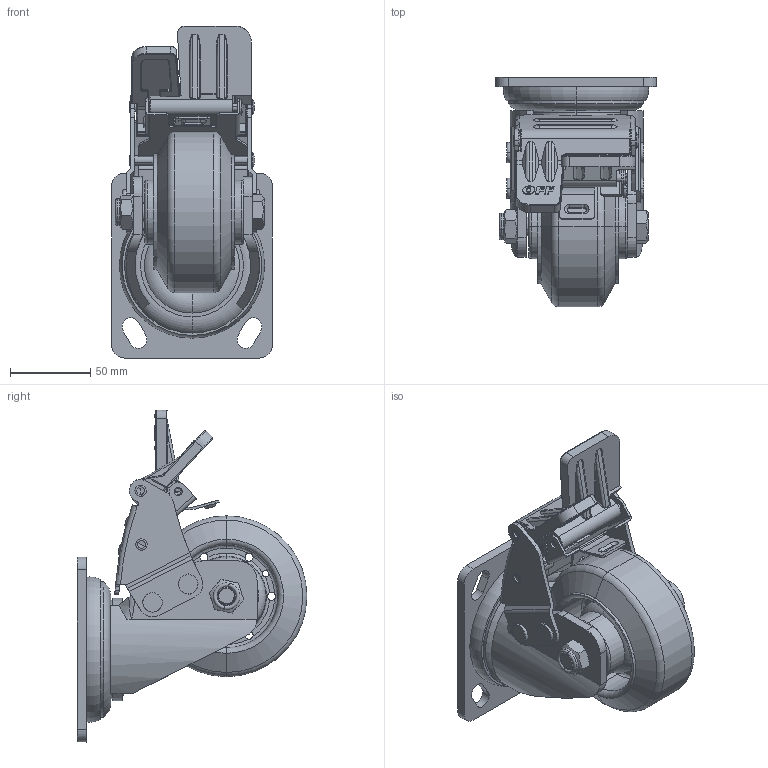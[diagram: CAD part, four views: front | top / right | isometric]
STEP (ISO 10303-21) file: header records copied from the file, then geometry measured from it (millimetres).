
FILE_DESCRIPTION (( 'STEP AP203' ), '1' );
FILE_NAME ('重型4寸AB胶刹.STEP', '2024-04-12T09:45:50', ( '微软用户' ), ( '微软中国' ), 'SwSTEP 2.0', 'SolidWorks 2008', '' );
FILE_SCHEMA (( 'CONFIG_CONTROL_DESIGN' ));
Length unit declared in the file: millimetre
Products named in the file (13): M7 重型ON塑胶刹车手柄B_默认; 4寸胶，碟刹连接件_默认; 5｡ﾁ60ﾎｲｿﾗｶ､_ﾄｬﾈﾏ; 6｡ﾁ79ﾎｲｿﾗｶ､_ﾄｬﾈﾏ; 笭倰4渡AB蝶价; M7 重型OFF塑胶解刹手柄B_默认; ф8×14平头钉_默认; 12｡ﾁ85ﾂﾝｸﾋ_ﾄｬﾈﾏ; M12螺母_默认; M7 重型4寸刹车锰片_默认; M7  4寸刹车臂(55)_默认; 4寸橡胶轮_默认; 重型万向底板_默认
Assembly tree (17 placements, depth 2):
  笭倰4渡AB蝶价
    M12螺母_默认
    6｡ﾁ79ﾎｲｿﾗｶ､_ﾄｬﾈﾏ  x2
    M7 重型4寸刹车锰片_默认
    5｡ﾁ60ﾎｲｿﾗｶ､_ﾄｬﾈﾏ  x2
    重型万向底板_默认
    M7 重型OFF塑胶解刹手柄B_默认
    ф8×14平头钉_默认  x4
    4寸橡胶轮_默认
    12｡ﾁ85ﾂﾝｸﾋ_ﾄｬﾈﾏ
    M7 重型ON塑胶刹车手柄B_默认
    4寸胶，碟刹连接件_默认
    M7  4寸刹车臂(55)_默认
Bounding box: 100 x 142.9 x 206.46 mm (x, y, z)
Volume: 597970.4 mm3; surface area: 172615.8 mm2
Topology: 18 solids, 18 shells, 1204 faces, 3101 edges, 1963 vertices
Faces by surface type: cylinder 463, plane 453, torus 123, bspline 100, cone 36, sphere 29
Entity records: 44872 total; most frequent: CARTESIAN_POINT 15713, ORIENTED_EDGE 5926, DIRECTION 5682, EDGE_CURVE 2963, AXIS2_PLACEMENT_3D 2102, VERTEX_POINT 1882, VECTOR 1478, LINE 1478
